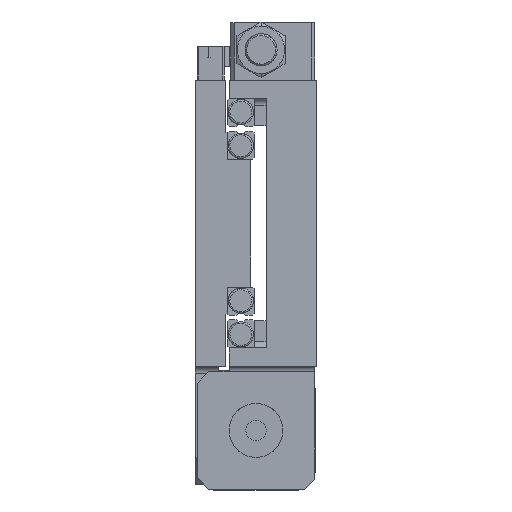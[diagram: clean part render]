
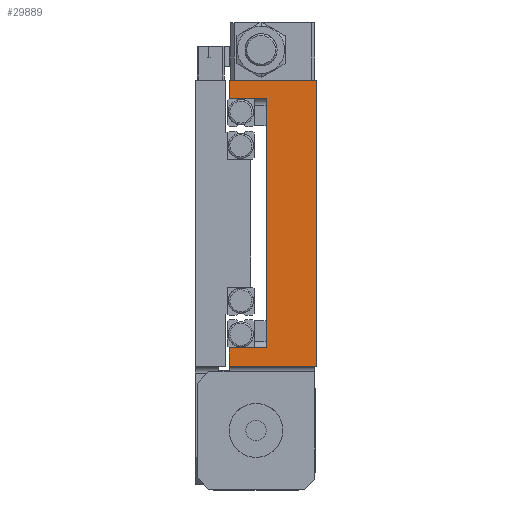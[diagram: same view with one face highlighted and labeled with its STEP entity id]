
A CAD part, left-side view. The second image highlights one B-rep face of the part: STEP entity #29889.
In plain terms, the highlighted planar face has unit normal (-1, 0, 0).
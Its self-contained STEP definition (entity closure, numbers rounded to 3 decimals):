
#843 = CARTESIAN_POINT ( 'NONE',  ( -240., 0., -42.5 ) ) ;
#984 = LINE ( 'NONE', #11762, #10086 ) ;
#1363 = EDGE_CURVE ( 'NONE', #12186, #2713, #30112, .T. ) ;
#1627 = CARTESIAN_POINT ( 'NONE',  ( -240., 26., 42.5 ) ) ;
#2515 = DIRECTION ( 'NONE',  ( 0., 0., -1. ) ) ;
#2548 = AXIS2_PLACEMENT_3D ( 'NONE', #26959, #16623, #2515 ) ;
#2691 = DIRECTION ( 'NONE',  ( 0., 0., 1. ) ) ;
#2713 = VERTEX_POINT ( 'NONE', #16770 ) ;
#3979 = EDGE_CURVE ( 'NONE', #22894, #24190, #32487, .T. ) ;
#4678 = VECTOR ( 'NONE', #30168, 1000. ) ;
#5932 = EDGE_CURVE ( 'NONE', #29231, #12186, #32549, .T. ) ;
#7003 = EDGE_CURVE ( 'NONE', #2713, #14003, #14066, .T. ) ;
#7271 = LINE ( 'NONE', #28885, #18240 ) ;
#8416 = DIRECTION ( 'NONE',  ( 0., 0., 1. ) ) ;
#8432 = EDGE_LOOP ( 'NONE', ( #15493, #18330, #24444, #14996, #17362, #15654, #29570, #15463 ) ) ;
#9302 = EDGE_CURVE ( 'NONE', #29231, #24190, #19875, .T. ) ;
#10086 = VECTOR ( 'NONE', #19909, 1000. ) ;
#10235 = VERTEX_POINT ( 'NONE', #15097 ) ;
#10427 = CARTESIAN_POINT ( 'NONE',  ( -240., 15., -37. ) ) ;
#11054 = VECTOR ( 'NONE', #24335, 1000. ) ;
#11503 = CARTESIAN_POINT ( 'NONE',  ( -240., 0., -42.5 ) ) ;
#11516 = CARTESIAN_POINT ( 'NONE',  ( -240., 18.5, 37. ) ) ;
#11762 = CARTESIAN_POINT ( 'NONE',  ( -240., 26., 42.5 ) ) ;
#12186 = VERTEX_POINT ( 'NONE', #21396 ) ;
#14003 = VERTEX_POINT ( 'NONE', #1627 ) ;
#14066 = LINE ( 'NONE', #19195, #25765 ) ;
#14590 = VERTEX_POINT ( 'NONE', #843 ) ;
#14996 = ORIENTED_EDGE ( 'NONE', *, *, #30062, .F. ) ;
#15097 = CARTESIAN_POINT ( 'NONE',  ( -240., 0., 42.5 ) ) ;
#15463 = ORIENTED_EDGE ( 'NONE', *, *, #1363, .F. ) ;
#15493 = ORIENTED_EDGE ( 'NONE', *, *, #5932, .F. ) ;
#15654 = ORIENTED_EDGE ( 'NONE', *, *, #19395, .F. ) ;
#16263 = PLANE ( 'NONE',  #2548 ) ;
#16593 = VECTOR ( 'NONE', #27130, 1000. ) ;
#16623 = DIRECTION ( 'NONE',  ( 1., 0., 0. ) ) ;
#16770 = CARTESIAN_POINT ( 'NONE',  ( -240., 26., 37. ) ) ;
#17362 = ORIENTED_EDGE ( 'NONE', *, *, #32936, .T. ) ;
#18240 = VECTOR ( 'NONE', #2691, 1000. ) ;
#18330 = ORIENTED_EDGE ( 'NONE', *, *, #9302, .T. ) ;
#19195 = CARTESIAN_POINT ( 'NONE',  ( -240., 26., 42.5 ) ) ;
#19395 = EDGE_CURVE ( 'NONE', #14003, #10235, #984, .T. ) ;
#19626 = DIRECTION ( 'NONE',  ( 0., 1., 0. ) ) ;
#19875 = LINE ( 'NONE', #20056, #4678 ) ;
#19909 = DIRECTION ( 'NONE',  ( 0., -1., 0. ) ) ;
#20056 = CARTESIAN_POINT ( 'NONE',  ( -240., 18.5, -37. ) ) ;
#20139 = CARTESIAN_POINT ( 'NONE',  ( -240., 26., -42.5 ) ) ;
#20922 = VECTOR ( 'NONE', #19626, 1000. ) ;
#21396 = CARTESIAN_POINT ( 'NONE',  ( -240., 15., 37. ) ) ;
#21907 = CARTESIAN_POINT ( 'NONE',  ( -240., 15., -29. ) ) ;
#21908 = CARTESIAN_POINT ( 'NONE',  ( -240., 26., -37. ) ) ;
#22494 = LINE ( 'NONE', #11503, #20922 ) ;
#22894 = VERTEX_POINT ( 'NONE', #20139 ) ;
#24190 = VERTEX_POINT ( 'NONE', #21908 ) ;
#24335 = DIRECTION ( 'NONE',  ( 0., 0., 1. ) ) ;
#24444 = ORIENTED_EDGE ( 'NONE', *, *, #3979, .F. ) ;
#25765 = VECTOR ( 'NONE', #8416, 1000. ) ;
#26959 = CARTESIAN_POINT ( 'NONE',  ( -240., 26., 42.5 ) ) ;
#27130 = DIRECTION ( 'NONE',  ( 0., 1., 0. ) ) ;
#27526 = VECTOR ( 'NONE', #32710, 1000. ) ;
#28885 = CARTESIAN_POINT ( 'NONE',  ( -240., 0., 42.5 ) ) ;
#29231 = VERTEX_POINT ( 'NONE', #10427 ) ;
#29570 = ORIENTED_EDGE ( 'NONE', *, *, #7003, .F. ) ;
#29889 = ADVANCED_FACE ( 'NONE', ( #30100 ), #16263, .F. ) ;
#30062 = EDGE_CURVE ( 'NONE', #14590, #22894, #22494, .T. ) ;
#30100 = FACE_OUTER_BOUND ( 'NONE', #8432, .T. ) ;
#30112 = LINE ( 'NONE', #11516, #16593 ) ;
#30168 = DIRECTION ( 'NONE',  ( 0., 1., 0. ) ) ;
#32487 = LINE ( 'NONE', #33173, #11054 ) ;
#32549 = LINE ( 'NONE', #21907, #27526 ) ;
#32710 = DIRECTION ( 'NONE',  ( 0., 0., 1. ) ) ;
#32936 = EDGE_CURVE ( 'NONE', #14590, #10235, #7271, .T. ) ;
#33173 = CARTESIAN_POINT ( 'NONE',  ( -240., 26., 42.5 ) ) ;
